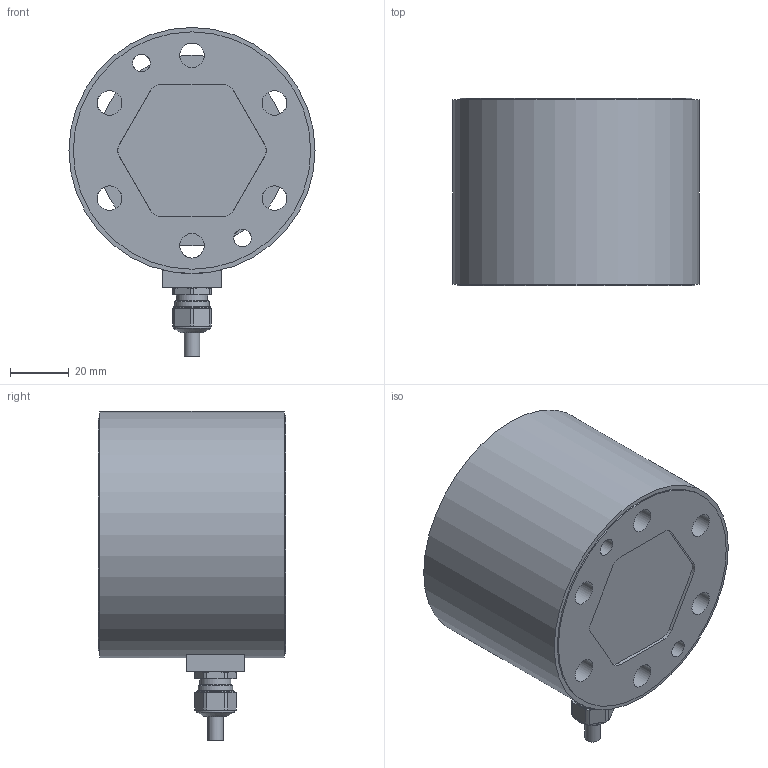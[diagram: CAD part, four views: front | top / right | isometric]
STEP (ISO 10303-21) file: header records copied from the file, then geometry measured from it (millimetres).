
FILE_DESCRIPTION(/* description */ ('Alibre Inc.'),/* implementation_level */ '2;1');
FILE_NAME(/* name */ 'export0',/* time_stamp */ '2016-03-01T10:15:25+01:00',/* author */ (''),/* organization */ (''),/* preprocessor_version */ 'ST-DEVELOPER v14',/* originating_system */ 'Alibre',/* authorisation */ '');
FILE_SCHEMA (('CONFIG_CONTROL_DESIGN'));
Length unit declared in the file: centimetre
Products named in the file (8): ID_1; _HUGRO 101.1006.01-(4)
Bounding box: 84 x 64 x 112.29 mm (x, y, z)
Volume: 248769.8 mm3; surface area: 78199.7 mm2
Topology: 10 solids, 11 shells, 321 faces, 803 edges, 515 vertices
Faces by surface type: plane 198, cylinder 89, cone 27, torus 7
Full cylindrical faces by diameter (mm): 2 x4, 2.459 x4, 3.3 x4, 4 x1, 5 x1, 5.25 x1, 6 x4, 6.2 x1, 7 x1, 7.1 x1, 8.16 x1, 8.2 x1, 8.376 x13, 10 x1, 10.59 x1, 11 x1, 11.15 x1, 11.794 x1, 12 x1, 12.8 x2, 65 x1, 79 x1, 80 x1, 81 x2, 82 x1, 84 x1
Entity records: 8579 total; most frequent: CARTESIAN_POINT 1789, ORIENTED_EDGE 1156, DIRECTION 1119, EDGE_CURVE 578, AXIS2_PLACEMENT_3D 470, VERTEX_POINT 408, FACE_BOUND 406, EDGE_LOOP 405
